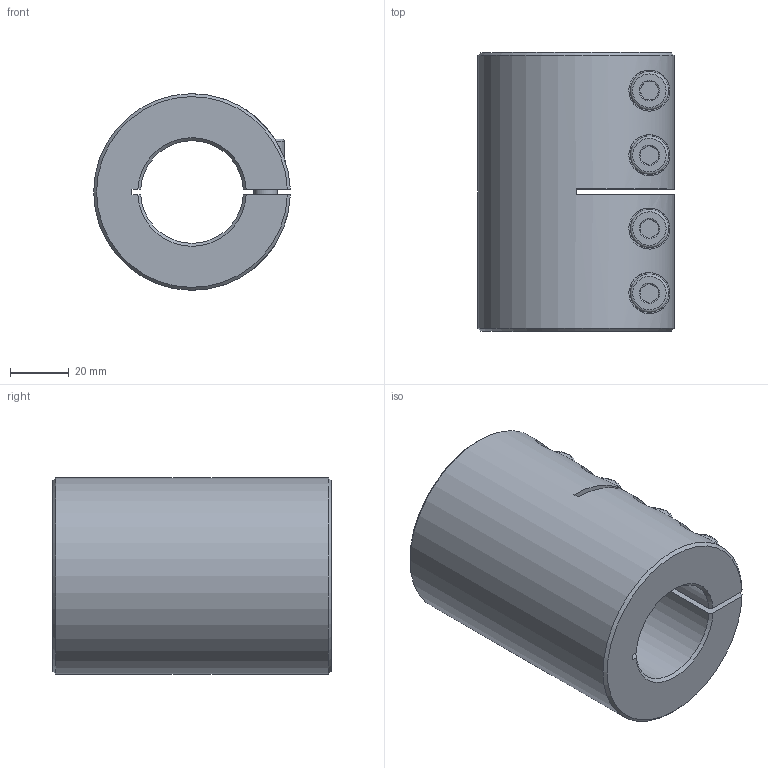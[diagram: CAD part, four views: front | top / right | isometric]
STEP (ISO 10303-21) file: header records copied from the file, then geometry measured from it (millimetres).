
FILE_DESCRIPTION( ( 'Unknown' ), '1' );
FILE_NAME( 'K:/Konstruktion/Fertigungszeichnungen/Schalenkupplung/KBST/KBST-35.stp', 'Unknown', ( 'Unknown' ), ( 'Unknown' ), 'PSStep 16.0.42', 'Unknown', ' ' );
FILE_SCHEMA( ( 'AUTOMOTIVE_DESIGN { 1 0 10303 214 1 1 1 1 }' ) );
Length unit declared in the file: millimetre
Products named in the file (3): Assem1; KBST-35; ISO EN DIN 4762 M8x25
Assembly tree (5 placements, depth 2):
  Assem1
    KBST-35
    ISO EN DIN 4762 M8x25  x4
Bounding box: 66.99 x 95 x 67 mm (x, y, z)
Volume: 233708.7 mm3; surface area: 49172.8 mm2
Topology: 5 solids, 5 shells, 140 faces, 278 edges, 168 vertices
Faces by surface type: plane 67, cone 34, cylinder 31, torus 8
Full cylindrical faces by diameter (mm): 6.647 x4, 7 x4, 8 x8, 8.5 x4, 13 x4
Entity records: 3008 total; most frequent: CARTESIAN_POINT 1005, DIRECTION 298, ORIENTED_EDGE 258, EDGE_CURVE 129, AXIS2_PLACEMENT_3D 124, EDGE_LOOP 104, VERTEX_POINT 91, FACE_OUTER_BOUND 79
